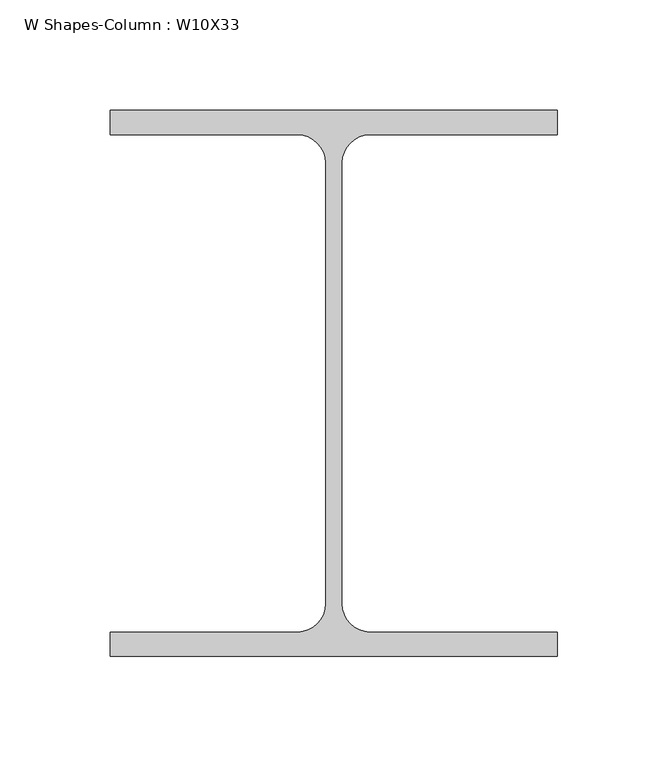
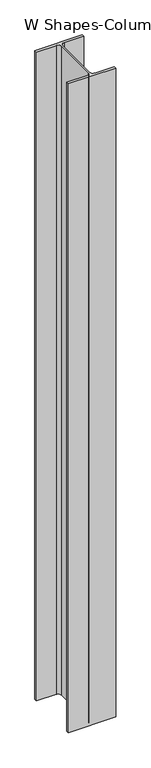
"""IFC4 building model written with IfcOpenShell, lengths in millimetres: column geometry, W Shapes-Column : W10X33."""

from ifc_helpers import new_model, si_unit, point, frame_2d, origin, origin_with_axes, place, context, project, spatial, polyline, circle_curve, trimmed, segment, composite_curve, outline, extrude, source, transform, mapped, element, save


def w_shapes_column_w10x33_4bcec04c(model_context):
    return source(origin(), model_context, "Body", "SweptSolid", [
        extrude(outline(composite_curve([segment(polyline([(101.092, 123.571), (101.092, 112.522), (16.383, 112.522)]), True, "CONTINUOUS"), segment(trimmed(circle_curve(frame_2d((16.383, 99.822)), 12.7), [point((16.383, 112.522))], [point((3.683, 99.822))], True, "CARTESIAN"), True, "CONTINUOUS"), segment(polyline([(3.683, 99.822), (3.683, -99.822)]), True, "CONTINUOUS"), segment(trimmed(circle_curve(frame_2d((16.383, -99.822)), 12.7), [point((3.683, -99.822))], [point((16.383, -112.522))], True, "CARTESIAN"), True, "CONTINUOUS"), segment(polyline([(16.383, -112.522), (101.092, -112.522), (101.092, -123.571), (-101.092, -123.571), (-101.092, -112.522), (-16.383, -112.522)]), True, "CONTINUOUS"), segment(trimmed(circle_curve(frame_2d((-16.383, -99.822)), 12.7), [point((-16.383, -112.522))], [point((-3.683, -99.822))], True, "CARTESIAN"), True, "CONTINUOUS"), segment(polyline([(-3.683, -99.822), (-3.683, 99.822)]), True, "CONTINUOUS"), segment(trimmed(circle_curve(frame_2d((-16.383, 99.822)), 12.7), [point((-3.683, 99.822))], [point((-16.383, 112.522))], True, "CARTESIAN"), True, "CONTINUOUS"), segment(polyline([(-16.383, 112.522), (-101.092, 112.522), (-101.092, 123.571), (101.092, 123.571)]), True, "CONTINUOUS")], self_intersect=False)), origin_with_axes(), (0.0, 0.0, 1.0), 2921.0),
    ])


if __name__ == "__main__":
    model = new_model("IFC4")
    model_context = context("Model", 3, world=origin())
    ifc_project = project(units=[si_unit("LENGTHUNIT", "METRE", prefix="MILLI")], contexts=[model_context])
    site = spatial("IfcSite", under=ifc_project)
    building = spatial("IfcBuilding", under=site)
    placement = place(None, origin())
    w_shapes_column_w10x33_shape = w_shapes_column_w10x33_4bcec04c(model_context)
    element("IfcColumn", 1, ObjectType="W Shapes-Column : W10X33", at=placement, inside=building, context=model_context, shape_type="MappedRepresentation", body=[
        mapped(w_shapes_column_w10x33_shape, transform((0.0, 0.0, 0.0), x_axis=(1.0, 0.0, 0.0), y_axis=(0.0, 1.0, 0.0), z_axis=(0.0, 0.0, 1.0))),
    ])
    save(model, "model.ifc")
